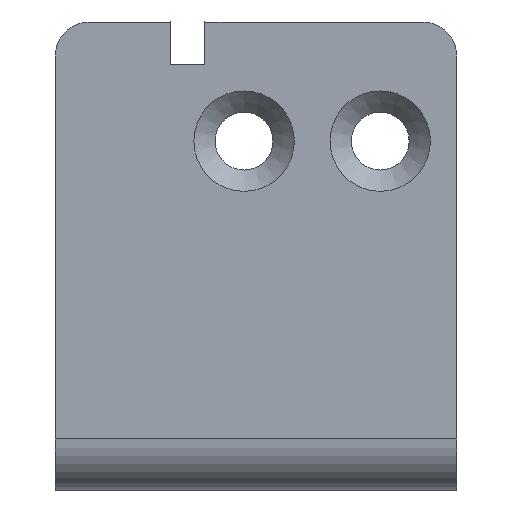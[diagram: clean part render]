
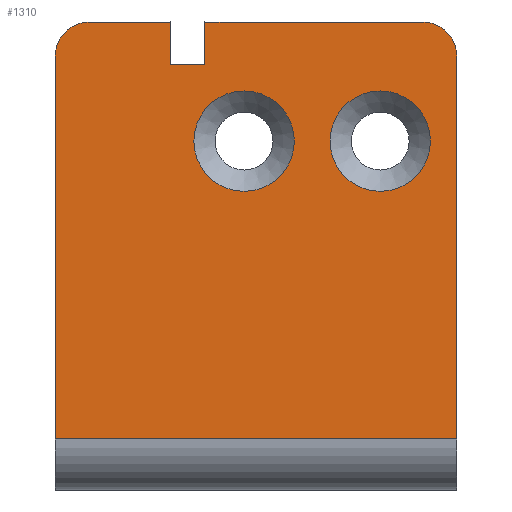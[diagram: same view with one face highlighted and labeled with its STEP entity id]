
A CAD part, left-side view. The second image highlights one B-rep face of the part: STEP entity #1310.
In plain terms, the highlighted planar face has unit normal (-1, 0, 0).
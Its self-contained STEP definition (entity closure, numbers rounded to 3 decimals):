
#104=FACE_BOUND('',#265,.T.);
#105=FACE_BOUND('',#266,.T.);
#130=PLANE('',#1422);
#192=FACE_OUTER_BOUND('',#264,.T.);
#264=EDGE_LOOP('',(#1044,#1045,#1046,#1047,#1048,#1049,#1050,#1051,#1052,
#1053));
#265=EDGE_LOOP('',(#1054));
#266=EDGE_LOOP('',(#1055));
#344=LINE('',#1918,#482);
#354=LINE('',#1947,#492);
#363=LINE('',#1977,#501);
#365=LINE('',#1980,#503);
#366=LINE('',#1982,#504);
#372=LINE('',#1995,#510);
#373=LINE('',#1997,#511);
#374=LINE('',#1998,#512);
#482=VECTOR('',#1560,10.);
#492=VECTOR('',#1584,10.);
#501=VECTOR('',#1619,10.);
#503=VECTOR('',#1623,10.);
#504=VECTOR('',#1626,10.);
#510=VECTOR('',#1640,10.);
#511=VECTOR('',#1641,10.);
#512=VECTOR('',#1642,10.);
#606=CIRCLE('',#1394,2.);
#611=CIRCLE('',#1402,2.);
#616=CIRCLE('',#1413,2.95);
#617=CIRCLE('',#1415,2.95);
#658=VERTEX_POINT('',#1905);
#659=VERTEX_POINT('',#1906);
#663=VERTEX_POINT('',#1916);
#673=VERTEX_POINT('',#1940);
#674=VERTEX_POINT('',#1941);
#675=VERTEX_POINT('',#1946);
#680=VERTEX_POINT('',#1966);
#681=VERTEX_POINT('',#1970);
#682=VERTEX_POINT('',#1974);
#683=VERTEX_POINT('',#1976);
#686=VERTEX_POINT('',#1994);
#687=VERTEX_POINT('',#1996);
#776=EDGE_CURVE('',#658,#659,#606,.T.);
#782=EDGE_CURVE('',#663,#658,#344,.T.);
#793=EDGE_CURVE('',#673,#674,#611,.T.);
#796=EDGE_CURVE('',#674,#675,#354,.T.);
#806=EDGE_CURVE('',#680,#680,#616,.T.);
#808=EDGE_CURVE('',#681,#681,#617,.T.);
#811=EDGE_CURVE('',#683,#682,#363,.T.);
#813=EDGE_CURVE('',#663,#683,#365,.T.);
#814=EDGE_CURVE('',#682,#675,#366,.T.);
#820=EDGE_CURVE('',#686,#673,#372,.T.);
#821=EDGE_CURVE('',#686,#687,#373,.T.);
#822=EDGE_CURVE('',#659,#687,#374,.T.);
#1044=ORIENTED_EDGE('',*,*,#776,.F.);
#1045=ORIENTED_EDGE('',*,*,#782,.F.);
#1046=ORIENTED_EDGE('',*,*,#813,.T.);
#1047=ORIENTED_EDGE('',*,*,#811,.T.);
#1048=ORIENTED_EDGE('',*,*,#814,.T.);
#1049=ORIENTED_EDGE('',*,*,#796,.F.);
#1050=ORIENTED_EDGE('',*,*,#793,.F.);
#1051=ORIENTED_EDGE('',*,*,#820,.F.);
#1052=ORIENTED_EDGE('',*,*,#821,.T.);
#1053=ORIENTED_EDGE('',*,*,#822,.F.);
#1054=ORIENTED_EDGE('',*,*,#806,.T.);
#1055=ORIENTED_EDGE('',*,*,#808,.T.);
#1310=ADVANCED_FACE('',(#192,#104,#105),#130,.F.);
#1394=AXIS2_PLACEMENT_3D('',#1907,#1550,#1551);
#1402=AXIS2_PLACEMENT_3D('',#1942,#1578,#1579);
#1413=AXIS2_PLACEMENT_3D('',#1967,#1608,#1609);
#1415=AXIS2_PLACEMENT_3D('',#1971,#1613,#1614);
#1422=AXIS2_PLACEMENT_3D('',#1993,#1638,#1639);
#1550=DIRECTION('center_axis',(1.,0.,0.));
#1551=DIRECTION('ref_axis',(0.,-0.707,0.707));
#1560=DIRECTION('',(0.,-1.,0.));
#1578=DIRECTION('center_axis',(1.,0.,0.));
#1579=DIRECTION('ref_axis',(0.,0.707,0.707));
#1584=DIRECTION('',(0.,-1.,0.));
#1608=DIRECTION('center_axis',(1.,0.,0.));
#1609=DIRECTION('ref_axis',(0.,0.,1.));
#1613=DIRECTION('center_axis',(1.,0.,0.));
#1614=DIRECTION('ref_axis',(0.,0.,1.));
#1619=DIRECTION('',(0.,1.,0.));
#1623=DIRECTION('',(0.,0.,-1.));
#1626=DIRECTION('',(0.,0.,1.));
#1638=DIRECTION('center_axis',(1.,0.,0.));
#1639=DIRECTION('ref_axis',(0.,0.,-1.));
#1640=DIRECTION('',(0.,0.,1.));
#1641=DIRECTION('',(0.,-1.,0.));
#1642=DIRECTION('',(0.,0.,-1.));
#1905=CARTESIAN_POINT('',(-63.2,-9.8,25.5));
#1906=CARTESIAN_POINT('',(-63.2,-11.8,23.5));
#1907=CARTESIAN_POINT('Origin',(-63.2,-9.8,23.5));
#1916=CARTESIAN_POINT('',(-63.2,3.,25.5));
#1918=CARTESIAN_POINT('',(-63.2,11.8,25.5));
#1940=CARTESIAN_POINT('',(-63.2,11.8,23.5));
#1941=CARTESIAN_POINT('',(-63.2,9.8,25.5));
#1942=CARTESIAN_POINT('Origin',(-63.2,9.8,23.5));
#1946=CARTESIAN_POINT('',(-63.2,5.,25.5));
#1947=CARTESIAN_POINT('',(-63.2,11.8,25.5));
#1966=CARTESIAN_POINT('',(-63.2,0.7,15.55));
#1967=CARTESIAN_POINT('Origin',(-63.2,0.7,18.5));
#1970=CARTESIAN_POINT('',(-63.2,-7.3,15.55));
#1971=CARTESIAN_POINT('Origin',(-63.2,-7.3,18.5));
#1974=CARTESIAN_POINT('',(-63.2,5.,23.));
#1976=CARTESIAN_POINT('',(-63.2,3.,23.));
#1977=CARTESIAN_POINT('',(-63.2,1.5,23.));
#1980=CARTESIAN_POINT('',(-63.2,3.,18.637));
#1982=CARTESIAN_POINT('',(-63.2,5.,17.387));
#1993=CARTESIAN_POINT('Origin',(-63.2,0.,11.773));
#1994=CARTESIAN_POINT('',(-63.2,11.8,1.));
#1995=CARTESIAN_POINT('',(-63.2,11.8,1.));
#1996=CARTESIAN_POINT('',(-63.2,-11.8,1.));
#1997=CARTESIAN_POINT('',(-63.2,0.,1.));
#1998=CARTESIAN_POINT('',(-63.2,-11.8,-1.953));
